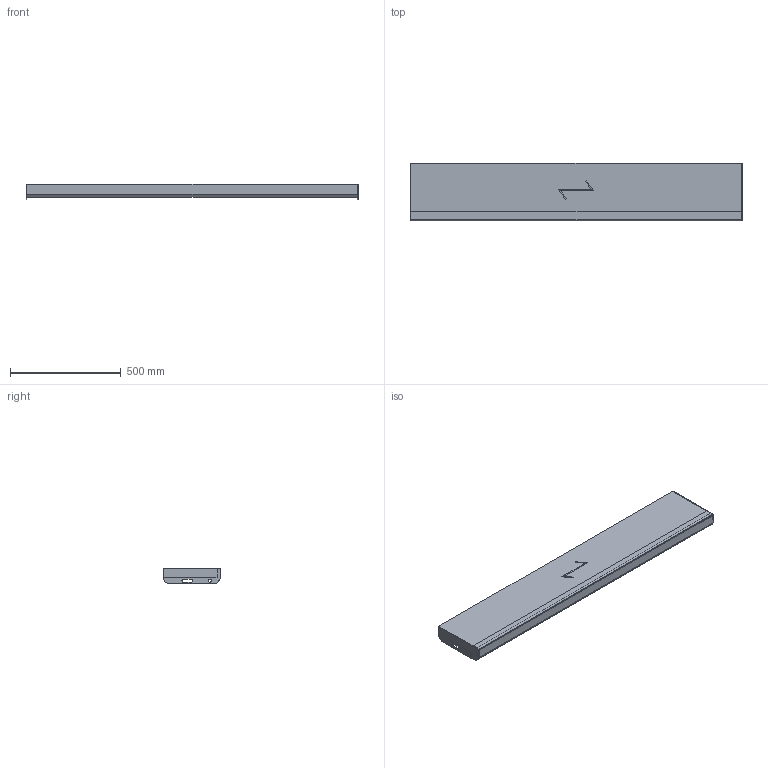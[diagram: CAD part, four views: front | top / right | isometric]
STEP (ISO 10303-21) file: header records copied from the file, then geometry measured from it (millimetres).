
FILE_DESCRIPTION (( 'STEP AP203' ), '1' );
FILE_NAME ('StegTH6-S-nya_steget-1500x260.STEP', '2020-03-04T07:46:57', ( '' ), ( '' ), 'SwSTEP 2.0', 'SolidWorks 2019', '' );
FILE_SCHEMA (( 'CONFIG_CONTROL_DESIGN' ));
Length unit declared in the file: millimetre
Products named in the file (5): SW0000039593; StegTH6-S-nya_steget-1500x260; SW0000039258; SW0000038995; SW0000038702
Assembly tree (5 placements, depth 3):
  StegTH6-S-nya_steget-1500x260
    SW0000039593
      SW0000038995
      SW0000039258
      SW0000038702  x2
Bounding box: 1500 x 260 x 72 mm (x, y, z)
Volume: 14916592.8 mm3; surface area: 1237289.2 mm2
Topology: 4 solids, 4 shells, 67 faces, 158 edges, 100 vertices
Faces by surface type: plane 51, cylinder 16
Entity records: 2002 total; most frequent: DIRECTION 261, CARTESIAN_POINT 254, ORIENTED_EDGE 238, EDGE_CURVE 119, LINE 99, VECTOR 99, AXIS2_PLACEMENT_3D 81, VERTEX_POINT 74
